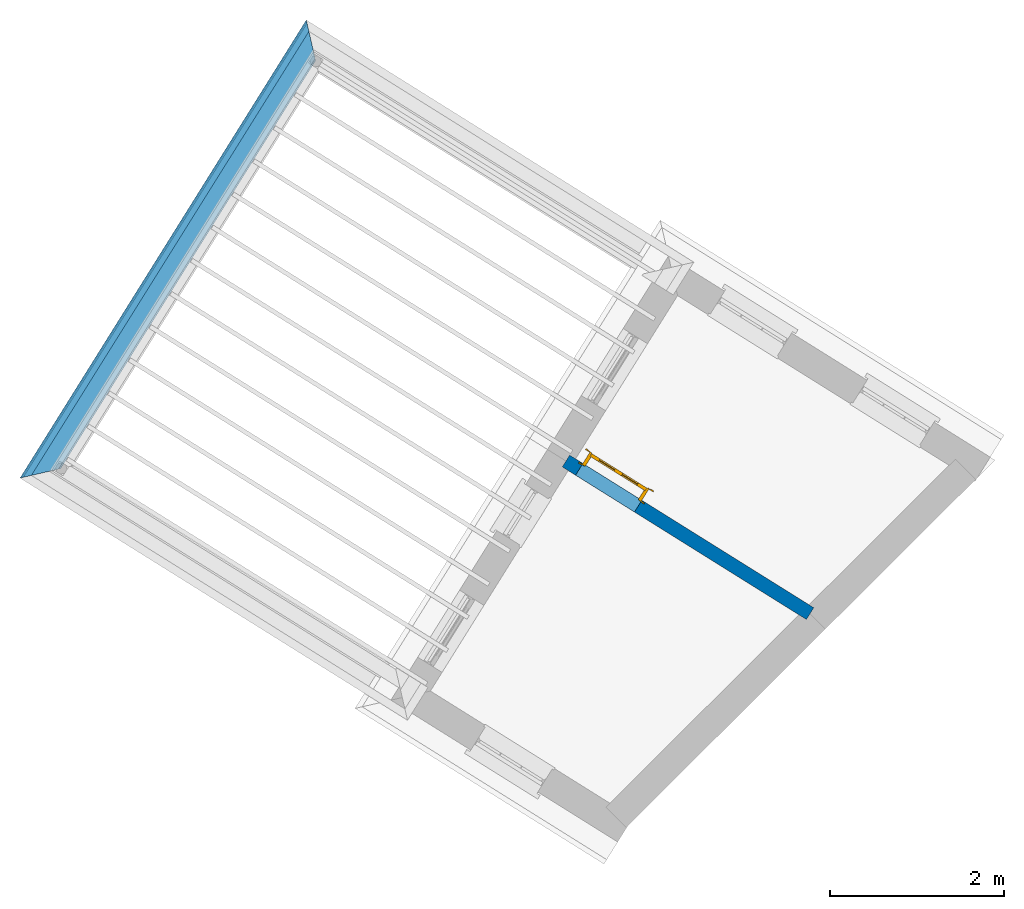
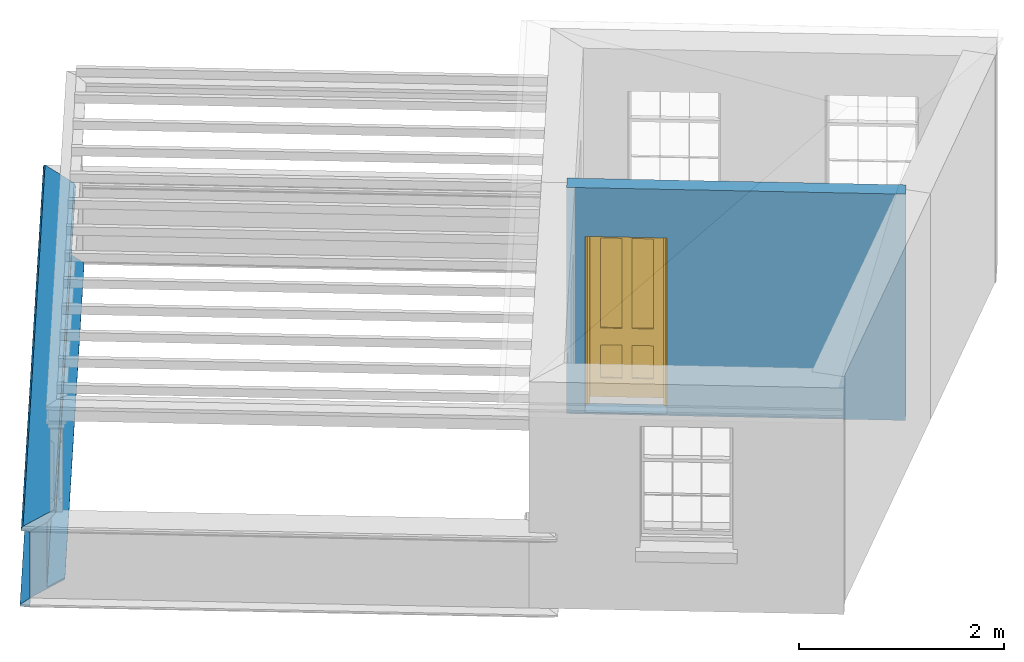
# One storey, part 4 of 6: 4 walls, 1 door, 1 opening.
"""IFC4 building model written with IfcOpenShell, lengths in metres."""

from ifc_helpers import new_model, si_unit, frame, origin, origin_with_axes, place, context, subcontext, project, spatial, polyline, outline, extrude, clip, halfspace, faceted_brep, source, transform, mapped, material, layer, layer_set, layer_usage, material_profile, profile_set, profile_usage, type_object, type_shapes, element, fill, save


model = new_model("IFC4")

# Units and contexts
model_context = context("Model", 3, world=origin_with_axes())
body_context = subcontext(model_context, "Body", "Model", "MODEL_VIEW")
ifc_project = project(units=[si_unit("PLANEANGLEUNIT", "RADIAN"), si_unit("MASSUNIT", "GRAM", prefix="KILO"), si_unit("FORCEUNIT", "NEWTON", prefix="KILO"), si_unit("LENGTHUNIT", "METRE"), si_unit("AREAUNIT", "SQUARE_METRE"), si_unit("VOLUMEUNIT", "CUBIC_METRE")], contexts=[model_context, model_context])

# Sites, building, storey
site_1_placement = place(None, origin_with_axes())
site_1 = spatial("IfcSite", under=ifc_project, at=site_1_placement, Name="Tamar")
site_2_placement = place(site_1_placement, origin_with_axes())
site_2 = spatial("IfcSite", under=site_1, at=site_2_placement, Name="Site plot-4", CompositionType="ELEMENT")
building_placement = place(None, origin_with_axes())
building = spatial("IfcBuilding", under=site_2, at=building_placement, Name="Building plot-4", CompositionType="ELEMENT")
storey_placement = place(None, frame((0.0, 0.0, 31.4), z_axis=(0.0, 0.0, 1.0), x_axis=(1.0, 0.0, 0.0)))
storey = spatial("IfcBuildingStorey", under=building, at=storey_placement, Name="plot-4 2", CompositionType="ELEMENT", Elevation=31.4)

# Wall, opening, door
ifc_material = material(Name="Masonry")
ifc_layer = layer(ifc_material, 0.16, ventilated=False)
ifc_layer_set = layer_set([ifc_layer], Name="interior_0.08_0.08")
ifc_layer_usage = layer_usage(ifc_layer_set, "AXIS2", "POSITIVE", -0.08)
wall_type_1 = type_object("IfcWallType", Name="interior_0.08_0.08", PredefinedType="SOLIDWALL", material=ifc_layer_set)
wall_1_placement = place(storey_placement, frame((223.639587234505, 281.566497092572, 0.0), z_axis=(0.0, 0.0, 1.0), x_axis=(0.847981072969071, -0.530026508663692, 0.0)))
wall_1 = element("IfcWall", 1, at=wall_1_placement, inside=storey, type_object=wall_type_1, material=ifc_layer_usage, Name="interior", context=body_context, shape_type="SweptSolid", body=[
    extrude(outline(polyline([(-3.37017940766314e-15, 0.0799999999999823), (3.32485509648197e-15, -0.0799999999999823), (3.3139920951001, -0.0799999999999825), (3.3139920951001, 0.0799999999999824), (-3.37017940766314e-15, 0.0799999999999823)])), origin_with_axes(), (0.0, 0.0, 1.0), 2.7),
])
opening_placement = place(wall_1_placement, frame((0.180000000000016, 0.0, 0.0199999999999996)))
opening = element("IfcOpeningElement", 2, at=opening_placement, cuts=wall_1, Name="My Opening", ObjectType="Opening", context=body_context, shape_type="SweptSolid", body=[
    extrude(outline(polyline([(0.0, -0.100000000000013), (0.79999999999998, -0.100000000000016), (0.799999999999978, 1.10000000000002), (-2.08166817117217e-15, 1.10000000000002), (0.0, -0.100000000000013)])), origin_with_axes(), (0.0, 0.0, 1.0), 2.1),
])
door_type = type_object("IfcDoorType", Name="door_inside", OperationType="SINGLE_SWING_LEFT", PredefinedType="NOTDEFINED")
shared_shape = source(origin(), body_context, "Body", "Brep", [
    faceted_brep([(0.773, 0.33, 1.895), (0.66, 0.33, 1.895), (0.66, 0.33, 2.073), (0.773, 0.33, 2.073), (0.773, 0.33, 0.82), (0.66, 0.33, 0.82), (0.45, 0.33, 1.895), (0.45, 0.33, 2.073), (0.773, 0.33, 0.62), (0.66, 0.33, 0.62), (0.66, 0.315, 0.82), (0.66, 0.315, 1.895), (0.45, 0.315, 1.895), (0.35, 0.33, 1.895), (0.35, 0.33, 2.073), (0.773, 0.33, 0.225), (0.66, 0.33, 0.225), (0.45, 0.33, 0.62), (0.45, 0.33, 0.82), (0.45, 0.315, 0.82), (0.35, 0.33, 0.82), (0.14, 0.33, 2.073), (0.14, 0.33, 1.895), (0.773, 0.33, 0.0), (0.66, 0.33, 0.0), (0.66, 0.315, 0.225), (0.66, 0.315, 0.62), (0.45, 0.315, 0.62), (0.35, 0.33, 0.62), (0.35, 0.315, 0.82), (0.35, 0.315, 1.895), (0.14, 0.315, 1.895), (0.027, 0.33, 2.073), (0.027, 0.33, 1.895), (0.773, 0.292, 0.0), (0.66, 0.292, 0.0), (0.45, 0.33, 0.0), (0.45, 0.33, 0.225), (0.45, 0.315, 0.225), (0.35, 0.33, 0.225), (0.14, 0.33, 0.82), (0.14, 0.33, 0.62), (0.14, 0.315, 0.82), (0.027, 0.33, 0.82), (0.773, 0.292, 0.225), (0.66, 0.292, 0.225), (0.45, 0.292, 0.0), (0.35, 0.33, 0.0), (0.35, 0.315, 0.225), (0.35, 0.315, 0.62), (0.14, 0.315, 0.62), (0.027, 0.33, 0.62), (0.773, 0.292, 0.62), (0.66, 0.292, 0.62), (0.45, 0.292, 0.225), (0.35, 0.292, 0.0), (0.14, 0.33, 0.225), (0.14, 0.33, 0.0), (0.14, 0.315, 0.225), (0.027, 0.33, 0.225), (0.773, 0.292, 0.82), (0.66, 0.292, 0.82), (0.66, 0.307, 0.62), (0.66, 0.307, 0.225), (0.45, 0.307, 0.225), (0.35, 0.292, 0.225), (0.14, 0.292, 0.0), (0.027, 0.33, 0.0), (0.773, 0.292, 1.895), (0.66, 0.292, 1.895), (0.45, 0.292, 0.62), (0.45, 0.292, 0.82), (0.45, 0.307, 0.62), (0.35, 0.292, 0.62), (0.14, 0.292, 0.225), (0.027, 0.292, 0.0), (0.773, 0.292, 2.073), (0.66, 0.292, 2.073), (0.66, 0.307, 1.895), (0.66, 0.307, 0.82), (0.45, 0.307, 0.82), (0.35, 0.292, 0.82), (0.35, 0.307, 0.62), (0.35, 0.307, 0.225), (0.14, 0.307, 0.225), (0.027, 0.292, 0.225), (0.45, 0.292, 1.895), (0.45, 0.292, 2.073), (0.45, 0.307, 1.895), (0.35, 0.292, 1.895), (0.14, 0.292, 0.82), (0.14, 0.292, 0.62), (0.14, 0.307, 0.62), (0.027, 0.292, 0.62), (0.35, 0.292, 2.073), (0.35, 0.307, 1.895), (0.35, 0.307, 0.82), (0.14, 0.307, 0.82), (0.027, 0.292, 0.82), (0.14, 0.292, 2.073), (0.14, 0.292, 1.895), (0.14, 0.307, 1.895), (0.027, 0.292, 1.895), (0.027, 0.292, 2.073), (0.02, 0.335, 0.0), (0.005, 0.34, 0.0), (0.005, 0.34, 2.095), (0.02, 0.335, 2.08), (0.02, 0.33, 0.0), (0.0, 0.335, 0.0), (0.0, 0.335, 2.1), (0.795, 0.34, 2.095), (0.78, 0.335, 2.08), (0.02, 0.33, 2.08), (0.0, 0.33, 0.0), (-0.032, 0.345, 0.0), (-0.032, 0.345, 2.132), (0.8, 0.335, 2.1), (0.795, 0.34, 0.0), (0.78, 0.335, 0.0), (0.78, 0.33, 2.08), (0.04, 0.29, 0.0), (0.025, 0.29, 0.0), (0.025, 0.29, 2.075), (0.04, 0.29, 2.06), (-0.04, 0.34, 0.0), (-0.04, 0.34, 2.14), (0.832, 0.345, 2.132), (0.8, 0.335, 0.0), (0.78, 0.33, 0.0), (0.8, 0.33, 0.0), (0.86, 0.33, 0.0), (0.86, 0.33, 2.16), (0.8, 0.33, 2.1), (-0.06, 0.33, 2.16), (0.0, 0.33, 2.1), (-0.06, 0.33, 0.0), (-0.04, 0.345, 0.0), (-0.04, 0.345, 2.14), (0.84, 0.34, 2.14), (0.832, 0.345, 0.0), (0.84, 0.34, 0.0), (0.86, 0.345, 0.0), (0.86, 0.345, 2.16), (-0.06, 0.345, 2.16), (-0.06, 0.345, 0.0), (0.84, 0.345, 0.0), (0.84, 0.345, 2.14), (-0.025, 0.155, 0.0), (-0.025, 0.16, 0.0), (-0.025, 0.16, 2.125), (-0.025, 0.155, 2.125), (-0.017, 0.155, 0.0), (-0.017, 0.155, 2.117), (0.825, 0.16, 2.125), (0.825, 0.155, 2.125), (0.825, 0.155, 0.0), (0.845, 0.155, 0.0), (-0.045, 0.155, 2.145), (-0.045, 0.155, 0.0), (0.845, 0.155, 2.145), (0.015, 0.165, 0.0), (0.015, 0.165, 2.085), (0.817, 0.155, 2.117), (0.825, 0.16, 0.0), (0.845, 0.17, 0.0), (0.845, 0.17, 2.145), (-0.045, 0.17, 2.145), (-0.045, 0.17, 0.0), (0.02, 0.16, 0.0), (0.02, 0.16, 2.08), (0.785, 0.165, 2.085), (0.817, 0.155, 0.0), (0.8, 0.17, 0.0), (0.8, 0.17, 2.1), (0.0, 0.17, 2.1), (0.0, 0.17, 0.0), (0.035, 0.165, 0.0), (0.035, 0.165, 2.065), (0.78, 0.16, 2.08), (0.785, 0.165, 0.0), (0.775, 0.29, 2.075), (0.76, 0.29, 2.06), (0.035, 0.17, 2.065), (0.035, 0.17, 0.0), (0.765, 0.165, 2.065), (0.78, 0.16, 0.0), (0.765, 0.17, 0.0), (0.765, 0.17, 2.065), (0.765, 0.165, 0.0), (0.04, 0.17, 2.06), (0.04, 0.17, 0.0), (0.76, 0.17, 2.06), (0.76, 0.17, 0.0), (0.76, 0.29, 0.0), (0.775, 0.29, 0.0), (0.025, 0.33, 0.0), (0.025, 0.33, 2.075), (0.775, 0.33, 0.0), (0.775, 0.33, 2.075)], [[[0, 1, 2, 3]], [[1, 0, 4, 5]], [[1, 6, 7, 2]], [[8, 9, 5, 4]], [[1, 5, 10, 11]], [[6, 1, 11, 12]], [[6, 13, 14, 7]], [[15, 16, 9, 8]], [[9, 17, 18, 5]], [[5, 18, 19, 10]], [[10, 19, 12, 11]], [[18, 6, 12, 19]], [[18, 20, 13, 6]], [[21, 14, 13, 22]], [[23, 24, 16, 15]], [[9, 16, 25, 26]], [[17, 9, 26, 27]], [[17, 28, 20, 18]], [[13, 20, 29, 30]], [[22, 13, 30, 31]], [[32, 21, 22, 33]], [[34, 35, 24, 23]], [[24, 36, 37, 16]], [[16, 37, 38, 25]], [[25, 38, 27, 26]], [[37, 17, 27, 38]], [[37, 39, 28, 17]], [[40, 20, 28, 41]], [[20, 40, 42, 29]], [[31, 30, 29, 42]], [[40, 22, 31, 42]], [[33, 22, 40, 43]], [[35, 34, 44, 45]], [[35, 46, 36, 24]], [[36, 47, 39, 37]], [[28, 39, 48, 49]], [[41, 28, 49, 50]], [[43, 40, 41, 51]], [[45, 44, 52, 53]], [[46, 35, 45, 54]], [[46, 55, 47, 36]], [[56, 39, 47, 57]], [[39, 56, 58, 48]], [[50, 49, 48, 58]], [[56, 41, 50, 58]], [[51, 41, 56, 59]], [[53, 52, 60, 61]], [[45, 53, 62, 63]], [[54, 45, 63, 64]], [[55, 46, 54, 65]], [[55, 66, 57, 47]], [[59, 56, 57, 67]], [[61, 60, 68, 69]], [[70, 53, 61, 71]], [[53, 70, 72, 62]], [[72, 64, 63, 62]], [[70, 54, 64, 72]], [[65, 54, 70, 73]], [[65, 74, 66, 55]], [[67, 57, 66, 75]], [[69, 68, 76, 77]], [[61, 69, 78, 79]], [[71, 61, 79, 80]], [[73, 70, 71, 81]], [[65, 73, 82, 83]], [[74, 65, 83, 84]], [[74, 85, 75, 66]], [[86, 69, 77, 87]], [[69, 86, 88, 78]], [[88, 80, 79, 78]], [[86, 71, 80, 88]], [[81, 71, 86, 89]], [[73, 81, 90, 91]], [[73, 91, 92, 82]], [[83, 82, 92, 84]], [[91, 74, 84, 92]], [[91, 93, 85, 74]], [[89, 86, 87, 94]], [[81, 89, 95, 96]], [[90, 81, 96, 97]], [[90, 98, 93, 91]], [[94, 99, 100, 89]], [[89, 100, 101, 95]], [[101, 97, 96, 95]], [[100, 90, 97, 101]], [[100, 102, 98, 90]], [[99, 103, 102, 100]], [[32, 103, 99, 21]], [[102, 103, 32, 33]], [[98, 102, 33, 43]], [[21, 99, 94, 14]], [[94, 87, 7, 14]], [[7, 87, 77, 2]], [[76, 3, 2, 77]], [[43, 51, 93, 98]], [[51, 59, 85, 93]], [[67, 75, 85, 59]], [[34, 23, 15, 44]], [[44, 15, 8, 52]], [[52, 8, 4, 60]], [[0, 68, 60, 4]], [[0, 3, 76, 68]], [[104, 105, 106, 107]], [[104, 108, 109, 105]], [[105, 109, 110, 106]], [[107, 106, 111, 112]], [[107, 113, 108, 104]], [[114, 109, 108]], [[109, 115, 116, 110]], [[106, 110, 117, 111]], [[112, 111, 118, 119]], [[113, 107, 112, 120]], [[121, 122, 123, 124]], [[115, 109, 114, 125]], [[115, 125, 126, 116]], [[110, 116, 127, 117]], [[111, 117, 128, 118]], [[118, 128, 129, 119]], [[120, 112, 119, 129]], [[130, 129, 128]], [[130, 131, 132, 133]], [[133, 132, 134, 135]], [[135, 134, 136, 114]], [[136, 125, 114]], [[125, 137, 138, 126]], [[116, 126, 139, 127]], [[117, 127, 140, 128]], [[141, 130, 128, 140]], [[131, 130, 141]], [[131, 142, 143, 132]], [[132, 143, 144, 134]], [[134, 144, 145, 136]], [[137, 125, 136, 145]], [[143, 142, 146]], [[143, 146, 147]], [[137, 145, 144]], [[143, 147, 138]], [[138, 137, 144]], [[143, 138, 144]], [[126, 138, 147, 139]], [[127, 139, 141, 140]], [[142, 131, 141, 146]], [[139, 147, 146, 141]], [[148, 149, 150, 151]], [[149, 152, 153, 150]], [[151, 150, 154, 155]], [[155, 156, 157]], [[158, 159, 148]], [[158, 148, 151]], [[155, 157, 160]], [[158, 151, 155]], [[155, 160, 158]], [[152, 161, 162, 153]], [[150, 153, 163, 154]], [[155, 154, 164, 156]], [[156, 164, 165, 157]], [[157, 165, 166, 160]], [[160, 166, 167, 158]], [[158, 167, 168, 159]], [[161, 169, 170, 162]], [[153, 162, 171, 163]], [[154, 163, 172, 164]], [[165, 164, 173]], [[165, 173, 174, 166]], [[166, 174, 175, 167]], [[167, 175, 176, 168]], [[169, 177, 178, 170]], [[162, 170, 179, 171]], [[163, 171, 180, 172]], [[172, 180, 173, 164]], [[124, 123, 181, 182]], [[183, 178, 177, 184]], [[170, 178, 185, 179]], [[171, 179, 186, 180]], [[187, 173, 180]], [[185, 188, 187, 189]], [[188, 185, 178, 183]], [[179, 185, 189, 186]], [[189, 187, 180, 186]], [[190, 183, 184, 191]], [[192, 188, 183, 190]], [[191, 184, 122, 121]], [[124, 190, 191, 121]], [[193, 187, 188, 192]], [[182, 192, 190, 124]], [[184, 176, 122]], [[194, 195, 187, 193]], [[192, 182, 194, 193]], [[161, 176, 184]], [[114, 108, 122, 176]], [[173, 187, 195]], [[152, 149, 176, 161]], [[169, 161, 184, 177]], [[196, 122, 108]], [[176, 175, 135, 114]], [[173, 195, 129, 130]], [[176, 149, 168]], [[123, 122, 196, 197]], [[196, 108, 113, 197]], [[175, 174, 133, 135]], [[198, 129, 195]], [[133, 174, 173, 130]], [[159, 168, 149, 148]], [[181, 123, 197, 199]], [[197, 113, 120, 199]], [[199, 120, 129, 198]], [[195, 181, 199, 198]], [[195, 194, 182, 181]]]),
])
type_shapes(door_type, [shared_shape])
door_placement = place(storey_placement, frame((223.739221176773, 281.386294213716, 0.0199999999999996), z_axis=(0.0, 0.0, 1.0), x_axis=(0.678384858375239, -0.424021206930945, 0.0)))
door = element("IfcDoor", 3, at=door_placement, inside=storey, type_object=door_type, Name="bedroom inside door", OverallHeight=2.1, OverallWidth=0.8, context=body_context, shape_type="MappedRepresentation", body=[
    mapped(shared_shape, transform((0.0, 0.0, 0.0), scale=1.0)),
])
fill(opening, door)

# Walls
ifc_material_profile_1 = material_profile(None, outline(polyline([(0.25, 0.0), (0.25, 0.795), (0.09, 0.795), (0.09, 0.02), (-0.08, 0.02), (-0.08, 0.0), (0.25, 0.0)])))
ifc_profile_set_1 = profile_set([ifc_material_profile_1])
ifc_profile_usage_1 = profile_usage(ifc_profile_set_1)
wall_type_2 = type_object("IfcWallType", Name="parapet_0", PredefinedType="PARAPET", material=ifc_profile_set_1)
wall_2_placement = place(storey_placement, frame((217.300315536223, 280.632413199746, 0.0), z_axis=(0.530026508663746, 0.847981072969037, 0.0), x_axis=(-0.847981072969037, 0.530026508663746, 0.0)))
element("IfcWall", 4, at=wall_2_placement, inside=storey, type_object=wall_type_2, material=ifc_profile_usage_1, Name="parapet_0", context=body_context, shape_type="Clipping", body=[
    clip(clip(extrude(outline(polyline([(0.25, 0.0), (0.25, 0.795), (0.09, 0.795), (0.09, 0.02), (-0.08, 0.02), (-0.08, 0.0), (0.25, 0.0)])), origin_with_axes(), (0.0, 0.0, 1.0), 7.52795952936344), halfspace(frame((0.0, 0.0, 6.52795952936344), z_axis=(0.707106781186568, 0.0, -0.707106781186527), x_axis=(0.0, 1.0, 0.0)), True)), halfspace(frame((0.0, 0.0, 1.0), z_axis=(-0.707106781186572, 0.0, -0.707106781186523), x_axis=(0.0, 1.0, 0.0)), False)),
])
ifc_material_profile_2 = material_profile(None, outline(polyline([(0.265, 0.795), (0.268, 0.807), (0.274, 0.816), (0.283, 0.822), (0.295, 0.825), (0.295, 0.84), (0.305, 0.84), (0.317, 0.842), (0.326, 0.849), (0.333, 0.858), (0.335, 0.87), (0.333, 0.882), (0.326, 0.891), (0.317, 0.898), (0.305, 0.9), (0.035, 0.9), (0.023, 0.898), (0.014, 0.891), (0.007, 0.882), (0.005, 0.87), (0.007, 0.858), (0.014, 0.849), (0.023, 0.842), (0.035, 0.84), (0.045, 0.84), (0.045, 0.825), (0.057, 0.822), (0.066, 0.816), (0.072, 0.807), (0.075, 0.795), (0.265, 0.795)])))
ifc_profile_set_2 = profile_set([ifc_material_profile_2])
ifc_profile_usage_2 = profile_usage(ifc_profile_set_2)
wall_type_3 = type_object("IfcWallType", Name="parapet_1", PredefinedType="PARAPET", material=ifc_profile_set_2)
wall_3_placement = place(storey_placement, frame((217.300315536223, 280.632413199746, 0.0), z_axis=(0.530026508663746, 0.847981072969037, 0.0), x_axis=(-0.847981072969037, 0.530026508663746, 0.0)))
element("IfcWall", 5, at=wall_3_placement, inside=storey, type_object=wall_type_3, material=ifc_profile_usage_2, Name="parapet_1", context=body_context, shape_type="Clipping", body=[
    clip(clip(extrude(outline(polyline([(0.265, 0.795), (0.268, 0.807), (0.274, 0.816), (0.283, 0.822), (0.295, 0.825), (0.295, 0.84), (0.305, 0.84), (0.317, 0.842), (0.326, 0.849), (0.333, 0.858), (0.335, 0.87), (0.333, 0.882), (0.326, 0.891), (0.317, 0.898), (0.305, 0.9), (0.035, 0.9), (0.023, 0.898), (0.014, 0.891), (0.007, 0.882), (0.005, 0.87), (0.007, 0.858), (0.014, 0.849), (0.023, 0.842), (0.035, 0.84), (0.045, 0.84), (0.045, 0.825), (0.057, 0.822), (0.066, 0.816), (0.072, 0.807), (0.075, 0.795), (0.265, 0.795)])), origin_with_axes(), (0.0, 0.0, 1.0), 7.52795952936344), halfspace(frame((0.0, 0.0, 6.52795952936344), z_axis=(0.707106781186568, 0.0, -0.707106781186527), x_axis=(0.0, 1.0, 0.0)), True)), halfspace(frame((0.0, 0.0, 1.0), z_axis=(-0.707106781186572, 0.0, -0.707106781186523), x_axis=(0.0, 1.0, 0.0)), False)),
])
ifc_material_profile_3 = material_profile(None, outline(polyline([(0.25, -0.1), (0.265, -0.1), (0.265, -0.085), (0.278, -0.084), (0.289, -0.081), (0.301, -0.074), (0.309, -0.065), (0.315, -0.055), (0.324, -0.044), (0.334, -0.038), (0.345, -0.035), (0.345, -0.015), (0.25, 0.0), (0.25, -0.1)])))
ifc_profile_set_3 = profile_set([ifc_material_profile_3])
ifc_profile_usage_3 = profile_usage(ifc_profile_set_3)
wall_type_4 = type_object("IfcWallType", Name="parapet_2", PredefinedType="PARAPET", material=ifc_profile_set_3)
wall_4_placement = place(storey_placement, frame((217.300315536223, 280.632413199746, 0.0), z_axis=(0.530026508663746, 0.847981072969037, 0.0), x_axis=(-0.847981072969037, 0.530026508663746, 0.0)))
element("IfcWall", 6, at=wall_4_placement, inside=storey, type_object=wall_type_4, material=ifc_profile_usage_3, Name="parapet_2", context=body_context, shape_type="Clipping", body=[
    clip(clip(extrude(outline(polyline([(0.25, -0.1), (0.265, -0.1), (0.265, -0.085), (0.278, -0.084), (0.289, -0.081), (0.301, -0.074), (0.309, -0.065), (0.315, -0.055), (0.324, -0.044), (0.334, -0.038), (0.345, -0.035), (0.345, -0.015), (0.25, 0.0), (0.25, -0.1)])), origin_with_axes(), (0.0, 0.0, 1.0), 7.52795952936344), halfspace(frame((0.0, 0.0, 6.52795952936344), z_axis=(0.707106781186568, 0.0, -0.707106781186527), x_axis=(0.0, 1.0, 0.0)), True)), halfspace(frame((0.0, 0.0, 1.0), z_axis=(-0.707106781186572, 0.0, -0.707106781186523), x_axis=(0.0, 1.0, 0.0)), False)),
])

save(model, "model.ifc")
